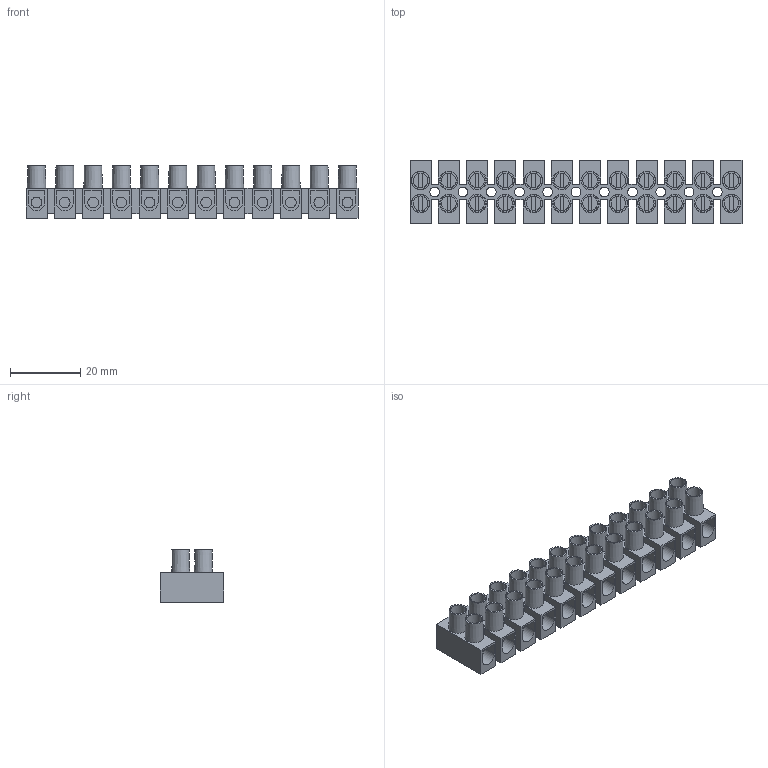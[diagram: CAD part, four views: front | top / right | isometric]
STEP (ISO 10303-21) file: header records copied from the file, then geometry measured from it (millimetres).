
FILE_DESCRIPTION(/* description */ ('Unknown'),/* implementation_level */ '2;1');
FILE_NAME(/* name */ 'MT 1104 TS',/* time_stamp */ '2021-10-08T09:54:35+02:00',/* author */ ('Unknown'),/* organization */ ('Unknown'),/* preprocessor_version */ 'ST-DEVELOPER v16.7',/* originating_system */ 'Solid Edge',/* authorisation */ 'Unknown');
FILE_SCHEMA (('AUTOMOTIVE_DESIGN {1 0 10303 214 3 1 1}'));
Length unit declared in the file: millimetre
Products named in the file (1): MT 1104 TS
Bounding box: 94.55 x 18 x 15 mm (x, y, z)
Volume: 9841.4 mm3; surface area: 14505.6 mm2
Topology: 1 solids, 1 shells, 558 faces, 1401 edges, 942 vertices
Faces by surface type: plane 451, cylinder 83, cone 24
Full cylindrical faces by diameter (mm): 2.8 x11, 3 x24, 4.2 x24
Entity records: 15804 total; most frequent: CARTESIAN_POINT 2701, DIRECTION 2696, ORIENTED_EDGE 2518, EDGE_CURVE 1259, LINE 940, VECTOR 940, VERTEX_POINT 883, AXIS2_PLACEMENT_3D 878
